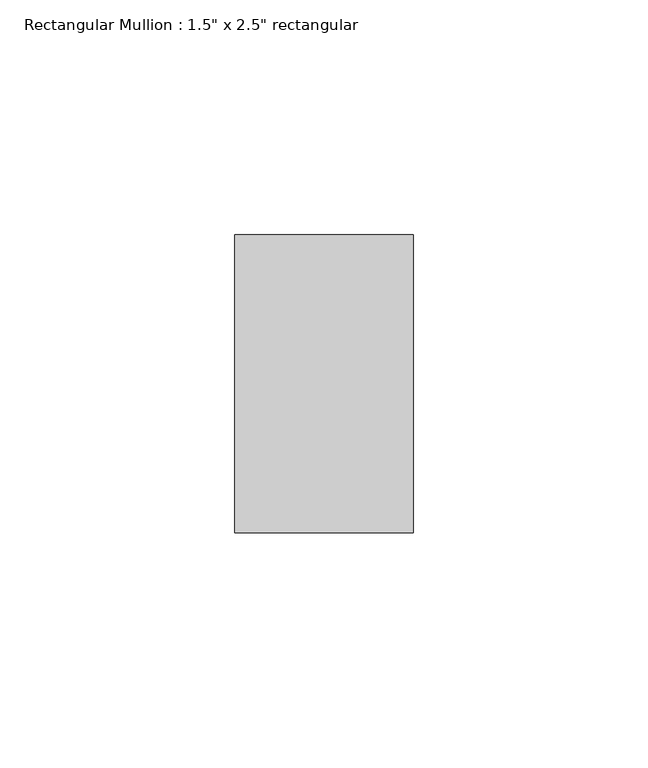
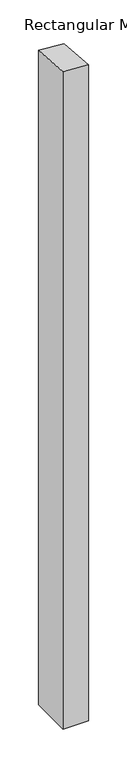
"""IFC4 building model written with IfcOpenShell, lengths in millimetres: member geometry."""

from ifc_helpers import new_model, si_unit, origin, place, context, project, spatial, faceted_brep, source, transform, mapped, element, save


def member_ebc3b6e9(model_context):
    return source(origin(), model_context, "Body", "Brep", [
        faceted_brep([(0.0, 31.75, -1032.4305134), (0.0, -31.75, -1032.4305134), (-38.1, -31.75, -1032.4305134), (-38.1, 31.75, -1032.4305134), (-38.1, 31.75, 0.4625856), (0.0, 31.75, -2.3868341), (-38.1, -31.75, 5.2362538), (0.0, -31.75, 2.3868341)], [[[0, 1, 2, 3]], [[4, 5, 0, 3]], [[6, 4, 3, 2]], [[7, 6, 2, 1]], [[5, 7, 1, 0]], [[5, 4, 6, 7]]]),
    ])


if __name__ == "__main__":
    model = new_model("IFC4")
    model_context = context("Model", 3, world=origin())
    ifc_project = project(units=[si_unit("LENGTHUNIT", "METRE", prefix="MILLI")], contexts=[model_context])
    site = spatial("IfcSite", under=ifc_project)
    building = spatial("IfcBuilding", under=site)
    placement = place(None, origin())
    member_shape = member_ebc3b6e9(model_context)
    element("IfcMember", 1, ObjectType="Rectangular Mullion : 1.5\" x 2.5\" rectangular", at=placement, inside=building, context=model_context, shape_type="MappedRepresentation", body=[
        mapped(member_shape, transform((0.0, 0.0, 0.0), x_axis=(1.0, 0.0, 0.0), y_axis=(0.0, 1.0, 0.0), z_axis=(0.0, 0.0, 1.0))),
    ])
    save(model, "model.ifc")
